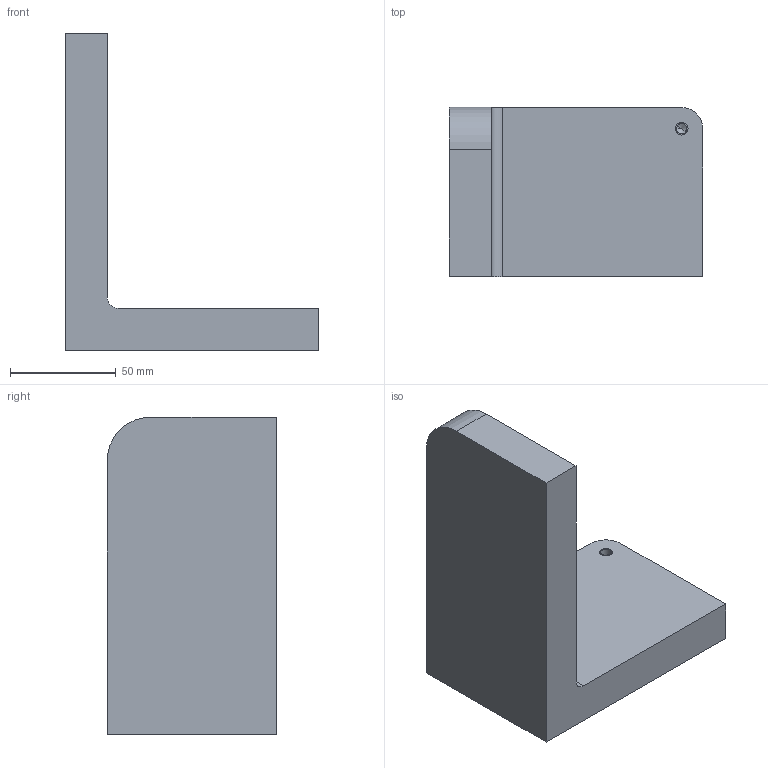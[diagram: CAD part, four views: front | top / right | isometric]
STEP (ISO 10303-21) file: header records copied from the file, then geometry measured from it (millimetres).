
FILE_DESCRIPTION(('CATIA V5 STEP Exchange'),'2;1');
FILE_NAME('C:\_Andres\UNIVERSIDAD\IQS\ASIGNATURAS\DAO\EXF\EXF-16172c\2inicio\Munar_Parra_Ej01_v20.stp','2017-03-05T15:11:08+00:00',('none'),('none'),'CATIA Version 5-6 Release 2014 SP1 HF18','CATIA V5 STEP AP203','none');
FILE_SCHEMA(('CONFIG_CONTROL_DESIGN'));
Length unit declared in the file: millimetre
Products named in the file (1): Munar_Parra_Ej01_v20
Bounding box: 120 x 80 x 150 mm (x, y, z)
Volume: 397970.4 mm3; surface area: 53043.2 mm2
Topology: 1 solids, 2 shells, 17 faces, 43 edges, 27 vertices
Faces by surface type: plane 8, cylinder 7, cone 2
Entity records: 513 total; most frequent: CARTESIAN_POINT 83, ORIENTED_EDGE 78, DIRECTION 69, EDGE_CURVE 41, AXIS2_PLACEMENT_3D 29, VECTOR 27, LINE 27, VERTEX_POINT 27
